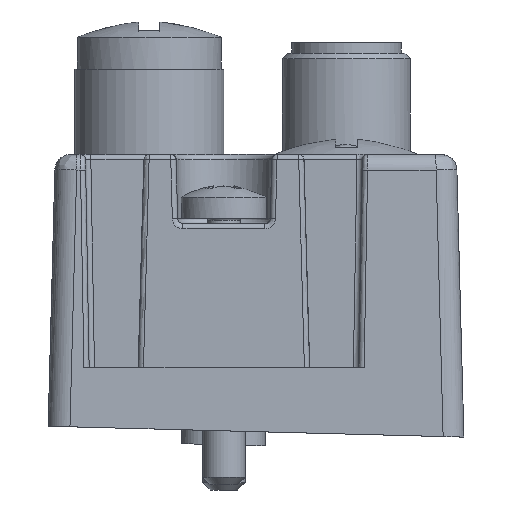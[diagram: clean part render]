
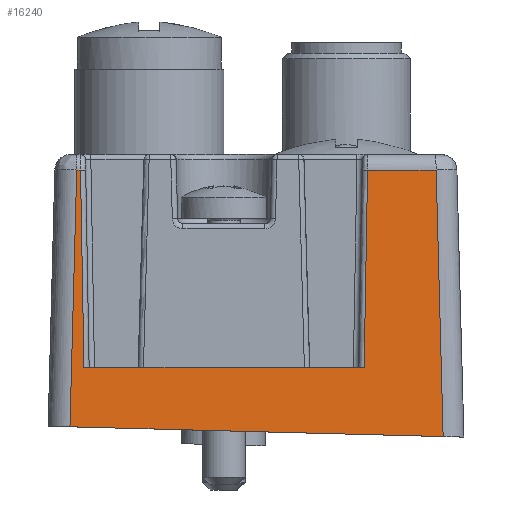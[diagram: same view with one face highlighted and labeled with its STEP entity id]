
A CAD part, left-side view. The second image highlights one B-rep face of the part: STEP entity #16240.
In plain terms, the highlighted free-form (B-spline) face has degree [1, 1] with [2, 2] control points.
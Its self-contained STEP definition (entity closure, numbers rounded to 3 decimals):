
#3179=CARTESIAN_POINT('V279',(0.722,36.461,
   24.039));
#3180=VERTEX_POINT('V279',#3179);
#9159=CARTESIAN_POINT('V106',(0.958,2.421,
   -0.984));
#9160=VERTEX_POINT('V106',#9159);
#9177=CARTESIAN_POINT('V318',(1.597,3.077,
   24.039));
#9178=VERTEX_POINT('V318',#9177);
#9190=CARTESIAN_POINT('E528',(0.958,2.421,
   -0.984));
#9191=CARTESIAN_POINT('E528',(1.597,3.077,
   24.039));
#9192=B_SPLINE_CURVE_WITH_KNOTS('E528',1,(#9190,#9191),
   .POLYLINE_FORM.,.F.,.U.,(2,2),(2.017,
   10.126),.UNSPECIFIED.);
#9193=EDGE_CURVE('E528',#9160,#9178,#9192,.T.);
#9221=CARTESIAN_POINT('V326',(0.934,9.836,
   5.5));
#9222=VERTEX_POINT('V326',#9221);
#9230=CARTESIAN_POINT('V284',(1.428,9.513,
   24.039));
#9231=VERTEX_POINT('V284',#9230);
#9232=CARTESIAN_POINT('E457',(1.428,9.513,
   24.039));
#9233=CARTESIAN_POINT('E457',(0.934,9.836,
   5.5));
#9234=B_SPLINE_CURVE_WITH_KNOTS('E457',1,(#9232,#9233),
   .POLYLINE_FORM.,.F.,.U.,(2,2),(3.221,
   26.457),.UNSPECIFIED.);
#9235=EDGE_CURVE('E457',#9231,#9222,#9234,.T.);
#12790=CARTESIAN_POINT('E529',(1.597,3.077,
   24.039));
#12791=CARTESIAN_POINT('E529',(1.428,9.513,
   24.039));
#12792=B_SPLINE_CURVE_WITH_KNOTS('E529',1,(#12790,#12791),
   .POLYLINE_FORM.,.F.,.U.,(2,2),(2.221,
   5.),.UNSPECIFIED.);
#12793=EDGE_CURVE('E529',#9178,#9231,#12792,.T.);
#13487=CARTESIAN_POINT('V99',(0.065,37.45,
   -0.067));
#13488=VERTEX_POINT('V99',#13487);
#13499=CARTESIAN_POINT('V289',(0.713,36.819,
   24.039));
#13500=VERTEX_POINT('V289',#13499);
#13501=CARTESIAN_POINT('E499',(0.713,36.819,
   24.039));
#13502=CARTESIAN_POINT('E499',(0.065,37.45,
   -0.067));
#13503=B_SPLINE_CURVE_WITH_KNOTS('E499',1,(#13501,#13502),
   .POLYLINE_FORM.,.F.,.U.,(2,2),(2.0,9.556),
   .UNSPECIFIED.);
#13504=EDGE_CURVE('E499',#13500,#13488,#13503,.T.);
#13547=CARTESIAN_POINT('E146',(0.958,2.421,
   -0.984));
#13548=CARTESIAN_POINT('E146',(0.065,37.45,
   -0.067));
#13549=B_SPLINE_CURVE_WITH_KNOTS('E146',1,(#13547,#13548),
   .POLYLINE_FORM.,.F.,.U.,(2,2),(0.058,
   0.892),.UNSPECIFIED.);
#13550=EDGE_CURVE('E146',#9160,#13488,#13549,.T.);
#16206=CARTESIAN_POINT('E501',(0.722,36.461,
   24.039));
#16207=CARTESIAN_POINT('E501',(0.713,36.819,
   24.039));
#16208=B_SPLINE_CURVE_WITH_KNOTS('E501',1,(#16206,#16207),
   .POLYLINE_FORM.,.F.,.U.,(2,2),(2.886,
   3.04),.UNSPECIFIED.);
#16209=EDGE_CURVE('E501',#3180,#13500,#16208,.T.);
#16215=CARTESIAN_POINT('F233',(-0.034,39.999,
   -1.306));
#16216=CARTESIAN_POINT('F233',(1.066,-2.001,
   -1.306));
#16217=CARTESIAN_POINT('F233',(0.703,40.018,
   26.84));
#16218=CARTESIAN_POINT('F233',(1.802,-1.982,
   26.84));
#16219=B_SPLINE_SURFACE_WITH_KNOTS('F233',1,1,((#16215,#16217),(
   #16216,#16218)),.PLANE_SURF.,.F.,.F.,.U.,(2,2),(2,2),(0.0,
   1.097),(0.0,0.735),.UNSPECIFIED.);
#16220=CARTESIAN_POINT('V323',(0.245,36.138,
   5.5));
#16221=VERTEX_POINT('V323',#16220);
#16222=CARTESIAN_POINT('E562',(0.934,9.836,
   5.5));
#16223=CARTESIAN_POINT('E562',(0.245,36.138,
   5.5));
#16224=QUASI_UNIFORM_CURVE('E562',1,(#16222,#16223),.POLYLINE_FORM.,
   .F.,.U.);
#16225=EDGE_CURVE('E562',#9222,#16221,#16224,.T.);
#16226=ORIENTED_EDGE('E562',*,*,#16225,.T.);
#16227=CARTESIAN_POINT('E454',(0.245,36.138,
   5.5));
#16228=CARTESIAN_POINT('E454',(0.722,36.461,
   24.039));
#16229=B_SPLINE_CURVE_WITH_KNOTS('E454',1,(#16227,#16228),
   .POLYLINE_FORM.,.F.,.U.,(2,2),(2.0,26.024),
   .UNSPECIFIED.);
#16230=EDGE_CURVE('E454',#16221,#3180,#16229,.T.);
#16231=ORIENTED_EDGE('E454',*,*,#16230,.T.);
#16232=ORIENTED_EDGE('E501',*,*,#16209,.T.);
#16233=ORIENTED_EDGE('E499',*,*,#13504,.T.);
#16234=ORIENTED_EDGE('F61',*,*,#13550,.F.);
#16235=ORIENTED_EDGE('F215',*,*,#9193,.T.);
#16236=ORIENTED_EDGE('E529',*,*,#12793,.T.);
#16237=ORIENTED_EDGE('E457',*,*,#9235,.T.);
#16238=EDGE_LOOP('F233',(#16226,#16231,#16232,#16233,#16234,#16235,
   #16236,#16237));
#16239=FACE_OUTER_BOUND('F233',#16238,.T.);
#16240=ADVANCED_FACE('F233',(#16239),#16219,.T.);
